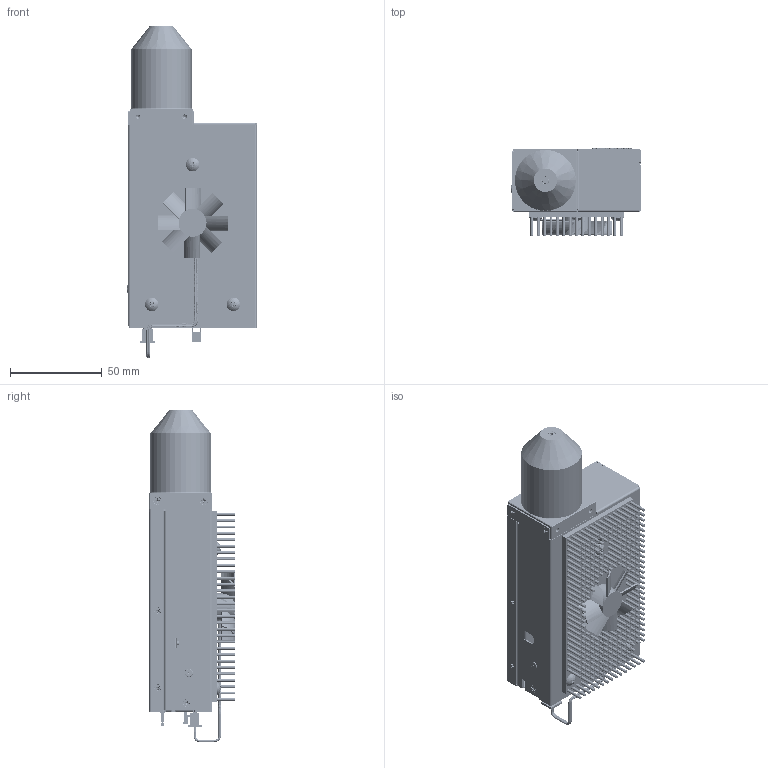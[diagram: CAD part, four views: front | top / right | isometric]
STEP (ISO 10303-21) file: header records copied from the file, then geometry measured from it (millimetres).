
FILE_DESCRIPTION (( 'STEP AP214' ), '1' );
FILE_NAME ('TUB00154-SA-W06_SANITIZED.STEP', '2024-03-04T21:49:04', ( '' ), ( '' ), 'SwSTEP 2.0', 'SolidWorks 2023', '' );
FILE_SCHEMA (( 'AUTOMOTIVE_DESIGN' ));
Products named in the file (1): TUB00154-SA-W06_SANITIZED
Bounding box: 70.51 x 47.38 x 180.97 mm (x, y, z)
Volume: 65946.4 mm3; surface area: 93750.1 mm2
Topology: 1 solids, 26 shells, 7657 faces, 19911 edges, 13365 vertices
Faces by surface type: plane 5264, bspline 1381, cylinder 746, cone 259, torus 4, sphere 3
Full cylindrical faces by diameter (mm): 0.419 x1, 0.533 x1, 0.762 x1, 0.794 x1, 1.181 x2, 1.6 x314, 1.778 x8, 1.846 x24, 1.9 x1, 2.05 x24, 2.149 x2, 2.184 x10, 2.337 x5, 2.387 x6, 2.388 x4, 2.413 x2, 2.54 x5, 2.819 x1, 2.845 x1, 3.454 x6, 3.87 x9, 3.962 x2, 4.083 x12, 4.19 x18, 4.216 x6, 5.461 x2, 5.588 x6, 6.35 x1, 7.34 x3, 7.937 x1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
Entity records: 313670 total; most frequent: CARTESIAN_POINT 138937, ORIENTED_EDGE 37918, DIRECTION 29696, EDGE_CURVE 18959, VECTOR 13752, LINE 13752, VERTEX_POINT 13082, EDGE_LOOP 9559
